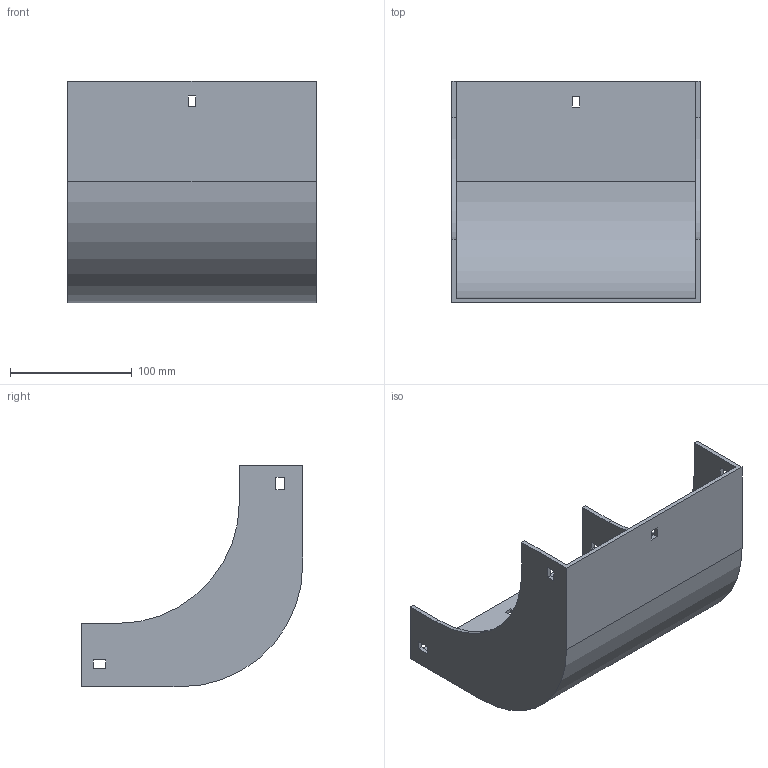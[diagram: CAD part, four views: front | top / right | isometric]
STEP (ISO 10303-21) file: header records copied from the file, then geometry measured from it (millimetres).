
FILE_DESCRIPTION (( 'STEP AP214' ), '1' );
FILE_NAME ('30F1B200.step', '2025-02-21T13:01:40', ( '' ), ( '' ), 'SwSTEP 2.0', 'SolidWorks 2023', '' );
FILE_SCHEMA (( 'AUTOMOTIVE_DESIGN' ));
Length unit declared in the file: millimetre
Products named in the file (1): 30F1B200
Bounding box: 204 x 182 x 182 mm (x, y, z)
Volume: 331667.5 mm3; surface area: 193863.1 mm2
Topology: 1 solids, 1 shells, 42 faces, 120 edges, 80 vertices
Faces by surface type: plane 38, cylinder 4
Entity records: 1399 total; most frequent: CARTESIAN_POINT 243, ORIENTED_EDGE 240, DIRECTION 214, EDGE_CURVE 120, VECTOR 112, LINE 112, VERTEX_POINT 80, EDGE_LOOP 54
